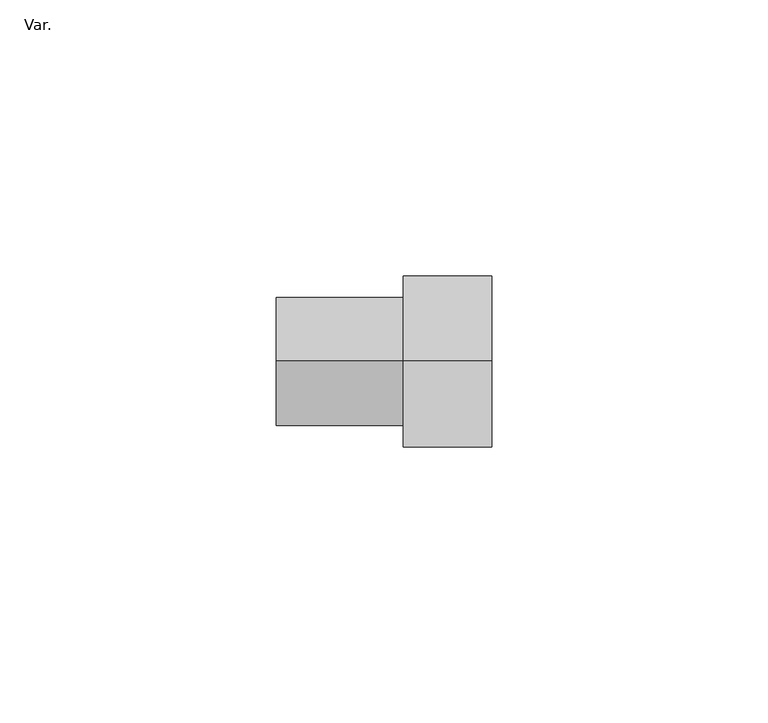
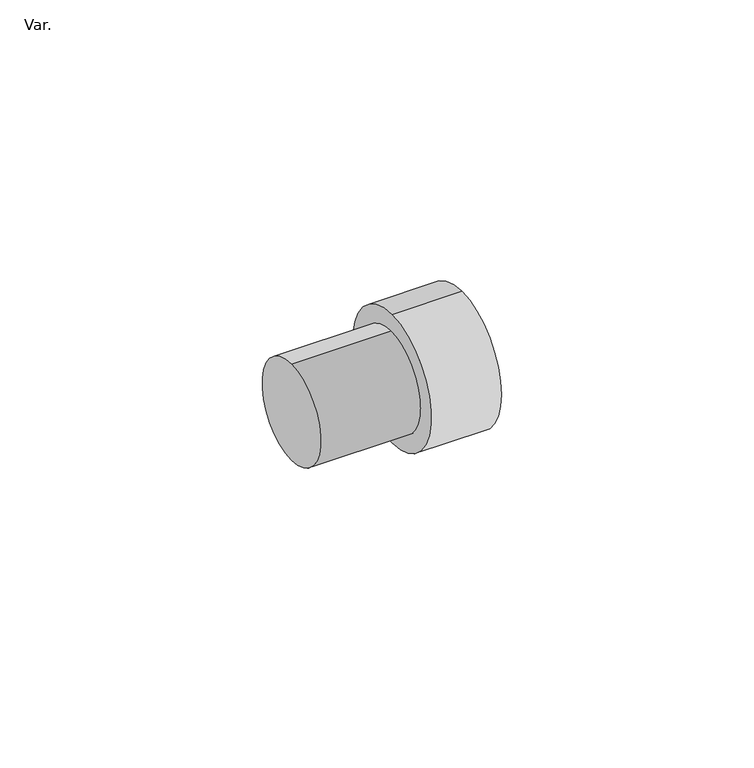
"""IFC4 building model written with IfcOpenShell, lengths in millimetres: pipe fitting geometry, AmancoWavin_ConexõesdeTubos_K5ZNãoUsarAdaptadorMachoMódulodeDistribuição(nested) : Var.."""

from ifc_helpers import new_model, si_unit, point, frame, origin, origin_2d, place, context, project, spatial, circle_curve, trimmed, segment, composite_curve, outline, extrude, source, transform, mapped, element, save


def var_521f35e1(model_context):
    return source(origin(), model_context, "Body", "SweptSolid", [
        extrude(outline(composite_curve([segment(trimmed(circle_curve(origin_2d(), 15.5), [point((0.0, 15.5))], [point((0.0, -15.5))], False, "CARTESIAN"), True, "CONTINUOUS"), segment(trimmed(circle_curve(origin_2d(), 15.5), [point((0.0, -15.5))], [point((0.0, 15.5))], False, "CARTESIAN"), True, "CONTINUOUS")], self_intersect=False)), frame((-16.0, 0.0, 0.0), z_axis=(1.0, 0.0, 0.0), x_axis=(0.0, 1.0, 0.0)), (0.0, 0.0, 1.0), 16.0),
        extrude(outline(composite_curve([segment(trimmed(circle_curve(origin_2d(), 11.6), [point((0.0, -11.6))], [point((0.0, 11.6))], False, "CARTESIAN"), True, "CONTINUOUS"), segment(trimmed(circle_curve(origin_2d(), 11.6), [point((0.0, 11.6))], [point((0.0, -11.6))], False, "CARTESIAN"), True, "CONTINUOUS")], self_intersect=False)), frame((-39.0, 0.0, 0.0), z_axis=(1.0, 0.0, 0.0), x_axis=(0.0, 1.0, 0.0)), (0.0, 0.0, 1.0), 23.0),
    ])


if __name__ == "__main__":
    model = new_model("IFC4")
    model_context = context("Model", 3, world=origin())
    ifc_project = project(units=[si_unit("LENGTHUNIT", "METRE", prefix="MILLI")], contexts=[model_context])
    site = spatial("IfcSite", under=ifc_project)
    building = spatial("IfcBuilding", under=site)
    placement = place(None, origin())
    var_shape = var_521f35e1(model_context)
    element("IfcPipeFitting", 1, ObjectType="AmancoWavin_ConexõesdeTubos_K5ZNãoUsarAdaptadorMachoMódulodeDistribuição(nested) : Var.", at=placement, inside=building, context=model_context, shape_type="MappedRepresentation", body=[
        mapped(var_shape, transform((0.0, 0.0, 0.0), x_axis=(1.0, 0.0, 0.0), y_axis=(0.0, 1.0, 0.0), z_axis=(0.0, 0.0, 1.0))),
    ])
    save(model, "model.ifc")
